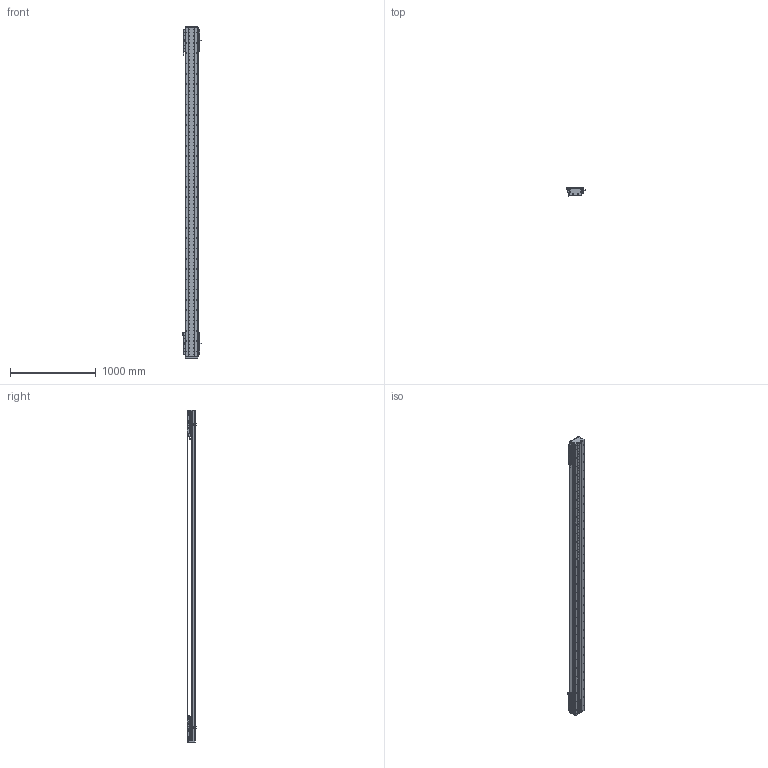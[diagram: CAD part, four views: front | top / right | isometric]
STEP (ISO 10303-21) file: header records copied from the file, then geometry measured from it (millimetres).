
FILE_DESCRIPTION (( 'STEP AP203' ), '1' );
FILE_NAME ('DA-C145-2-C3-T3260-C010-0.2 眻盄萇儂.STEP', '2025-08-14T00:40:56', ( '' ), ( '' ), 'SwSTEP 2.0', 'SolidWorks 2019', '' );
FILE_SCHEMA (( 'CONFIG_CONTROL_DESIGN' ));
Length unit declared in the file: millimetre
Products named in the file (38): CU145-W-00 珨极趙賑雄怢啣; DA-C145-2-C3-T3260-C010-0.2 眻盄萇儂; 葩璃 XD-U-02L 棠掑喜^DA-C145-2-C3-T-C010-0.2; 66245-CU145-HT-W-00 賑雄怢啣(3D芞祧)(00); 葩璃 PM-T45^DA-C145-2-C3-T-C010-0.2; 复件 纯铜油杯 6x6mm^CU145-W 滚珠滑台; 复件 DA145-C3-YB-B-00 压板B^CU145-W 滚珠滑台; 复件 半圆头内六角螺钉 M3×6^CU145-W 滚珠滑台; 葩璃 DA145-C3-DP-B-00 菜えB^CU145-W 幗紩賑怢; 葩璃 DA145-C3-DP-A-00 菜えA^CU145-W 幗紩賑怢; IU-CU145-L-00 菁釱(L3840); 复件 DA95-HK-GT-00 滑块钢轨^CU145-W-00 一体化滑动台板; 复件 DA146 钢带垫块^复件 CU145 钢带组件_DA-C145-2-C3-T-C010-0.2; CU145-W-00 珨极趙賑雄怢啣-1; 复件 DA145 钢带^复件 CU145 钢带组件_DA-C145-2-C3-T-C010-0.2; DKW-GYP-ZJ-00 笢潔嫖萇覜茼え; 葩璃 DMA-010-0.2 黍杅芛^DA-C145-2-C3-T-C010-0.2; 复件 DA95-DB-00  挡板^CU145-W 滚珠滑台; 葩璃 CU145 詩湍郪璃^DA-C145-2-C3-T-C010-0.2; DKW168-HXJ-ZJ-00 笢潔滅袉砎蝶; 复件 DA95-MFP-01 密封片^CU145-W 滚珠滑台; 复件 DA145-C3-DK-00 挡块^CU145-W 滚珠滑台; 葩璃 鞠褒情蹟譫 M3^DA-C145-2-C3-T-C010-0.2; 复件 内六角平端紧定螺钉 GB.T77-2000 M5×10^CU145-W 滚珠滑台; IU-CU145-L 菁釱絳寢; 复件 DA145-C3-YB-A-00 压板A^CU145-W 滚珠滑台; 复件 DA146 钢带拉块^复件 CU145 钢带组件_DA-C145-2-C3-T-C010-0.2; CU145-W 幗紩賑怢; 葩璃 PM-Y65^DA-C145-2-C3-T-C010-0.2; DKW-KGZ-ZJ-00 中间光电开关支架; 葩璃 CKMA01-W060-TRL^DA-C145-2-C3-T-C010-0.2; 复件 DA145-DG 钢带端盖^复件 CU145 钢带组件_DA-C145-2-C3-T-C010-0.2; TAY01-M8; CU145-W 幗紩賑怢-1; 葩璃 DA95-GT-T-00^IU-CU145-L 菁釱絳寢; 复件 DA145-GYP-00 光电感应片^DA-C145-2-C3-T-C010-0.2; 葩璃 DA95-HXJ-00 遣喳砎蝶^DA-C145-2-C3-T-C010-0.2; 葩璃 CKM03-W060-C1C2-TP-0.2^DA-C145-2-C3-T-C010-0.2
Assembly tree (180 placements, depth 4):
  DA-C145-2-C3-T3260-C010-0.2 眻盄萇儂
    IU-CU145-L 菁釱絳寢
      IU-CU145-L-00 菁釱(L3840)
      葩璃 DA95-GT-T-00^IU-CU145-L 菁釱絳寢  x4
    葩璃 CU145 詩湍郪璃^DA-C145-2-C3-T-C010-0.2
      复件 DA145-DG 钢带端盖^复件 CU145 钢带组件_DA-C145-2-C3-T-C010-0.2  x2
      复件 DA146 钢带拉块^复件 CU145 钢带组件_DA-C145-2-C3-T-C010-0.2  x2
      复件 DA146 钢带垫块^复件 CU145 钢带组件_DA-C145-2-C3-T-C010-0.2  x2
      复件 DA145 钢带^复件 CU145 钢带组件_DA-C145-2-C3-T-C010-0.2
    CU145-W 幗紩賑怢
      CU145-W-00 珨极趙賑雄怢啣
        66245-CU145-HT-W-00 賑雄怢啣(3D芞祧)(00)
        复件 DA95-HK-GT-00 滑块钢轨^CU145-W-00 一体化滑动台板  x8
      复件 DA95-MFP-01 密封片^CU145-W 滚珠滑台  x8
      复件 DA95-DB-00  挡板^CU145-W 滚珠滑台  x8
      复件 内六角平端紧定螺钉 GB.T77-2000 M5×10^CU145-W 滚珠滑台  x4
      复件 纯铜油杯 6x6mm^CU145-W 滚珠滑台  x4
      复件 半圆头内六角螺钉 M3×6^CU145-W 滚珠滑台  x16
      复件 DA145-C3-DK-00 挡块^CU145-W 滚珠滑台  x4
      葩璃 DA145-C3-DP-B-00 菜えB^CU145-W 幗紩賑怢  x2
      复件 DA145-C3-YB-B-00 压板B^CU145-W 滚珠滑台  x2
      葩璃 DA145-C3-DP-A-00 菜えA^CU145-W 幗紩賑怢  x3
      复件 DA145-C3-YB-A-00 压板A^CU145-W 滚珠滑台  x3
      TAY01-M8  x4
    CU145-W 幗紩賑怢-1
      CU145-W-00 珨极趙賑雄怢啣-1
        66245-CU145-HT-W-00 賑雄怢啣(3D芞祧)(00)
        复件 DA95-HK-GT-00 滑块钢轨^CU145-W-00 一体化滑动台板  x8
      复件 DA95-MFP-01 密封片^CU145-W 滚珠滑台  x8
      复件 DA95-DB-00  挡板^CU145-W 滚珠滑台  x8
      复件 内六角平端紧定螺钉 GB.T77-2000 M5×10^CU145-W 滚珠滑台  x4
      复件 纯铜油杯 6x6mm^CU145-W 滚珠滑台  x4
      复件 半圆头内六角螺钉 M3×6^CU145-W 滚珠滑台  x16
      复件 DA145-C3-DK-00 挡块^CU145-W 滚珠滑台  x4
      葩璃 DA145-C3-DP-B-00 菜えB^CU145-W 幗紩賑怢  x2
      复件 DA145-C3-YB-B-00 压板B^CU145-W 滚珠滑台  x2
      葩璃 DA145-C3-DP-A-00 菜えA^CU145-W 幗紩賑怢  x3
      复件 DA145-C3-YB-A-00 压板A^CU145-W 滚珠滑台  x3
      TAY01-M8  x4
    葩璃 CKMA01-W060-TRL^DA-C145-2-C3-T-C010-0.2
    葩璃 PM-T45^DA-C145-2-C3-T-C010-0.2  x4
    葩璃 XD-U-02L 棠掑喜^DA-C145-2-C3-T-C010-0.2
    葩璃 DA95-HXJ-00 遣喳砎蝶^DA-C145-2-C3-T-C010-0.2  x4
    葩璃 CKM03-W060-C1C2-TP-0.2^DA-C145-2-C3-T-C010-0.2  x2
    葩璃 DMA-010-0.2 黍杅芛^DA-C145-2-C3-T-C010-0.2  x2
    复件 DA145-GYP-00 光电感应片^DA-C145-2-C3-T-C010-0.2  x2
    DKW-GYP-ZJ-00 笢潔嫖萇覜茼え
    DKW-KGZ-ZJ-00 中间光电开关支架
    葩璃 PM-Y65^DA-C145-2-C3-T-C010-0.2
    葩璃 鞠褒情蹟譫 M3^DA-C145-2-C3-T-C010-0.2  x8
    DKW168-HXJ-ZJ-00 笢潔滅袉砎蝶
Bounding box: 213.7 x 108.45 x 3876 mm (x, y, z)
Volume: 19109552.6 mm3; surface area: 6276307.1 mm2
Topology: 175 solids, 239 shells, 8059 faces, 22551 edges, 14053 vertices
Faces by surface type: cylinder 3748, plane 2971, cone 1184, torus 140, sphere 8, bspline 8
Entity records: 170370 total; most frequent: CARTESIAN_POINT 52874, ORIENTED_EDGE 23788, DIRECTION 21951, EDGE_CURVE 11894, AXIS2_PLACEMENT_3D 8129, VERTEX_POINT 7752, VECTOR 5693, LINE 5693
